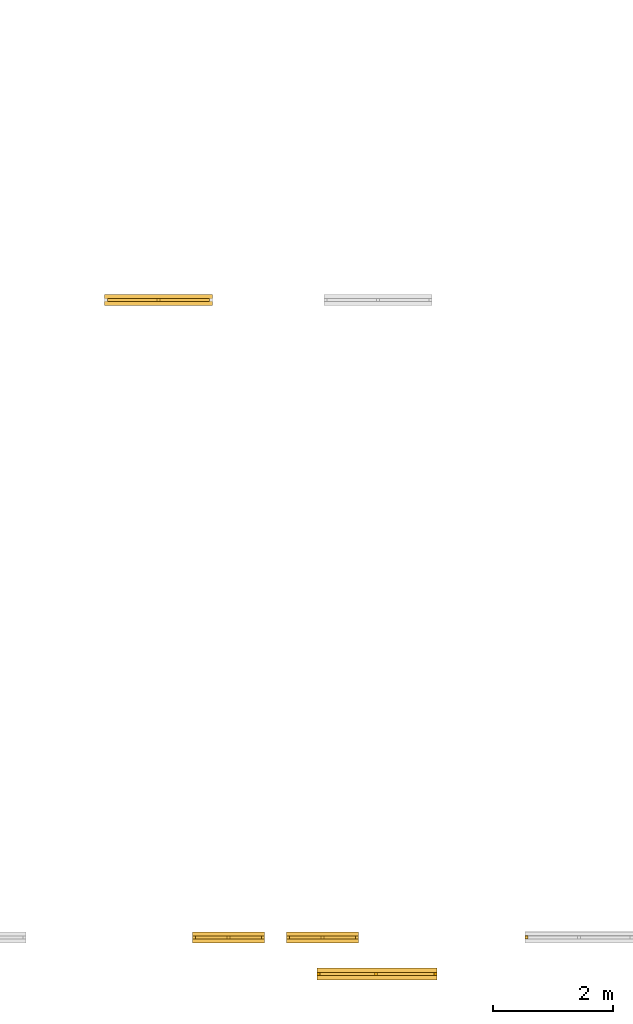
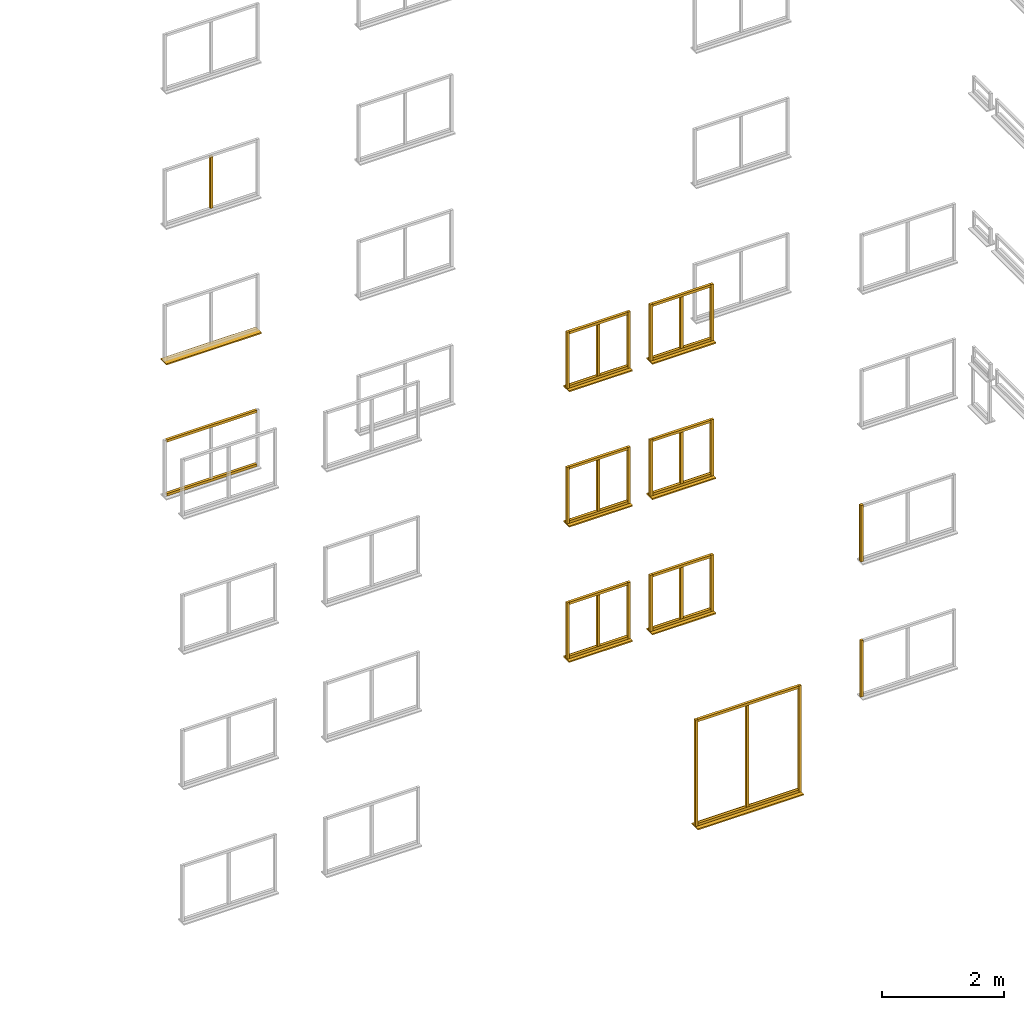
# Not in any storey, part 14 of 22: 49 windows.
"""IFC2X3 model written with IfcOpenShell, lengths in metres."""

from ifc_helpers import new_model, si_unit, frame, origin, place, context, project, faceted_brep, element, save


model = new_model("IFC2X3")

# Units and contexts
model_context = context("Model", 3, precision=1e-06, world=origin())
ifc_project = project(units=[si_unit("LENGTHUNIT", "METRE"), si_unit("PLANEANGLEUNIT", "RADIAN")], contexts=[model_context])

# Windows
placement = place(None, origin())
for number, where, z_axis, x_axis, name in (
    (1, (53.84499999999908, -5.698337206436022, 1.025), (0.0, 0.0, 1.0), (1.0, 0.0, 0.0), "leftFrame"),
    (2, (53.84499999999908, -5.698337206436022, 3.725), (0.0, 0.0, 1.0), (1.0, 0.0, 0.0), "leftFrame"),
    (3, (53.844999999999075, -5.691837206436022, 3.725), (0.0, 0.0, 1.0), (1.0, 0.0, 0.0), "leftFrame"),
):
    element("IfcWindow", number, at=place(placement, frame(where, z_axis=z_axis, x_axis=x_axis)), Name=name, context=model_context, shape_type="Brep", body=[
        faceted_brep([(0.0, 0.05, 0.0), (0.05, 0.05, 0.0), (0.05, 0.0, 0.0), (0.0, 0.0, 0.0), (0.05, 0.0, 1.125), (0.05, 0.05, 1.125), (0.0, 0.05, 1.125), (0.0, 0.0, 1.125), (0.0, 0.05, 0.0), (0.0, 0.0, 0.0), (0.0, 0.0, 1.125), (0.0, 0.05, 1.125), (0.05, 0.05, 0.0), (0.0, 0.05, 0.0), (0.0, 0.05, 1.125), (0.05, 0.05, 1.125), (0.05, 0.0, 0.0), (0.05, 0.05, 0.0), (0.05, 0.05, 1.125), (0.05, 0.0, 1.125), (0.0, 0.0, 0.0), (0.05, 0.0, 0.0), (0.05, 0.0, 1.125), (0.0, 0.0, 1.125)], [[[0, 1, 2, 3]], [[4, 5, 6, 7]], [[8, 9, 10, 11]], [[12, 13, 14, 15]], [[16, 17, 18, 19]], [[20, 21, 22, 23]]]),
    ])
window_1_placement = place(placement, frame((48.634598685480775, 5.057077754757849, 3.7), z_axis=(0.0, 0.0, 1.0), x_axis=(-1.0, 0.0, 0.0)))
element("IfcWindow", 4, at=window_1_placement, Name="windowSill", context=model_context, shape_type="Brep", body=[
    faceted_brep([(0.0, 0.186999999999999, 0.0), (1.8, 0.186999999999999, 0.0), (1.8, 0.0, 0.0), (0.0, 0.0, 0.0), (1.8, 0.0, 0.025), (1.8, 0.186999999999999, 0.025), (0.0, 0.186999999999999, 0.025), (0.0, 0.0, 0.025), (0.0, 0.186999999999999, 0.0), (0.0, 0.0, 0.0), (0.0, 0.0, 0.025), (0.0, 0.186999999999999, 0.025), (1.8, 0.186999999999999, 0.0), (0.0, 0.186999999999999, 0.0), (0.0, 0.186999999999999, 0.025), (1.8, 0.186999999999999, 0.025), (1.8, 0.0, 0.0), (1.8, 0.186999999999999, 0.0), (1.8, 0.186999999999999, 0.025), (1.8, 0.0, 0.025), (0.0, 0.0, 0.0), (1.8, 0.0, 0.0), (1.8, 0.0, 0.025), (0.0, 0.0, 0.025)], [[[0, 1, 2, 3]], [[4, 5, 6, 7]], [[8, 9, 10, 11]], [[12, 13, 14, 15]], [[16, 17, 18, 19]], [[20, 21, 22, 23]]]),
])
window_2_placement = place(placement, frame((48.58459868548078, 4.988577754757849, 2.1), z_axis=(0.0, 0.0, 1.0), x_axis=(-1.0, 0.0, 0.0)))
element("IfcWindow", 5, at=window_2_placement, Name="topFrame", context=model_context, shape_type="Brep", body=[
    faceted_brep([(0.0, 0.05, 0.0), (1.7, 0.05, 0.0), (1.7, 0.0, 0.0), (0.0, 0.0, 0.0), (1.7, 0.0, 0.05), (1.7, 0.05, 0.05), (0.0, 0.05, 0.05), (0.0, 0.0, 0.05), (0.0, 0.05, 0.0), (0.0, 0.0, 0.0), (0.0, 0.0, 0.05), (0.0, 0.05, 0.05), (1.7, 0.05, 0.0), (0.0, 0.05, 0.0), (0.0, 0.05, 0.05), (1.7, 0.05, 0.05), (1.7, 0.0, 0.0), (1.7, 0.05, 0.0), (1.7, 0.05, 0.05), (1.7, 0.0, 0.05), (0.0, 0.0, 0.0), (1.7, 0.0, 0.0), (1.7, 0.0, 0.05), (0.0, 0.0, 0.05)], [[[0, 1, 2, 3]], [[4, 5, 6, 7]], [[8, 9, 10, 11]], [[12, 13, 14, 15]], [[16, 17, 18, 19]], [[20, 21, 22, 23]]]),
])
window_3_placement = place(placement, frame((47.759598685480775, 4.98857775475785, 6.475000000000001), z_axis=(0.0, 0.0, 1.0), x_axis=(-1.0, 0.0, 0.0)))
element("IfcWindow", 6, at=window_3_placement, Name="verticalBar", context=model_context, shape_type="Brep", body=[
    faceted_brep([(0.0, 0.05, 0.0), (0.05, 0.05, 0.0), (0.05, 0.0, 0.0), (0.0, 0.0, 0.0), (0.05, 0.0, 1.025), (0.05, 0.05, 1.025), (0.0, 0.05, 1.025), (0.0, 0.0, 1.025), (0.0, 0.05, 0.0), (0.0, 0.0, 0.0), (0.0, 0.0, 1.025), (0.0, 0.05, 1.025), (0.05, 0.05, 0.0), (0.0, 0.05, 0.0), (0.0, 0.05, 1.025), (0.05, 0.05, 1.025), (0.05, 0.0, 0.0), (0.05, 0.05, 0.0), (0.05, 0.05, 1.025), (0.05, 0.0, 1.025), (0.0, 0.0, 0.0), (0.05, 0.0, 0.0), (0.05, 0.0, 1.025), (0.0, 0.0, 1.025)], [[[0, 1, 2, 3]], [[4, 5, 6, 7]], [[8, 9, 10, 11]], [[12, 13, 14, 15]], [[16, 17, 18, 19]], [[20, 21, 22, 23]]]),
])
for number, where, z_axis, x_axis, name in (
    (7, (49.86999999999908, -5.698422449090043, 3.725000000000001), (0.0, 0.0, 1.0), (1.0, 0.0, 0.0), "leftFrame"),
    (8, (51.01999999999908, -5.698422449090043, 3.725000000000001), (0.0, 0.0, 1.0), (1.0, 0.0, 0.0), "rightFrame"),
):
    element("IfcWindow", number, at=place(placement, frame(where, z_axis=z_axis, x_axis=x_axis)), Name=name, context=model_context, shape_type="Brep", body=[
        faceted_brep([(0.0, 0.05, 0.0), (0.05, 0.05, 0.0), (0.05, 0.0, 0.0), (0.0, 0.0, 0.0), (0.05, 0.0, 1.125), (0.05, 0.05, 1.125), (0.0, 0.05, 1.125), (0.0, 0.0, 1.125), (0.0, 0.05, 0.0), (0.0, 0.0, 0.0), (0.0, 0.0, 1.125), (0.0, 0.05, 1.125), (0.05, 0.05, 0.0), (0.0, 0.05, 0.0), (0.0, 0.05, 1.125), (0.05, 0.05, 1.125), (0.05, 0.0, 0.0), (0.05, 0.05, 0.0), (0.05, 0.05, 1.125), (0.05, 0.0, 1.125), (0.0, 0.0, 0.0), (0.05, 0.0, 0.0), (0.05, 0.0, 1.125), (0.0, 0.0, 1.125)], [[[0, 1, 2, 3]], [[4, 5, 6, 7]], [[8, 9, 10, 11]], [[12, 13, 14, 15]], [[16, 17, 18, 19]], [[20, 21, 22, 23]]]),
    ])
for number, where, z_axis, x_axis, name in (
    (9, (50.42499999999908, -6.304922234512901, 0.025), (0.0, 0.0, 1.0), (1.0, 0.0, 0.0), "bottomFrame"),
    (10, (50.42499999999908, -6.304922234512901, 2.1), (0.0, 0.0, 1.0), (1.0, 0.0, 0.0), "topFrame"),
):
    element("IfcWindow", number, at=place(placement, frame(where, z_axis=z_axis, x_axis=x_axis)), Name=name, context=model_context, shape_type="Brep", body=[
        faceted_brep([(0.0, 0.05, 0.0), (1.9, 0.05, 0.0), (1.9, 0.0, 0.0), (0.0, 0.0, 0.0), (1.9, 0.0, 0.05), (1.9, 0.05, 0.05), (0.0, 0.05, 0.05), (0.0, 0.0, 0.05), (0.0, 0.05, 0.0), (0.0, 0.0, 0.0), (0.0, 0.0, 0.05), (0.0, 0.05, 0.05), (1.9, 0.05, 0.0), (0.0, 0.05, 0.0), (0.0, 0.05, 0.05), (1.9, 0.05, 0.05), (1.9, 0.0, 0.0), (1.9, 0.05, 0.0), (1.9, 0.05, 0.05), (1.9, 0.0, 0.05), (0.0, 0.0, 0.0), (1.9, 0.0, 0.0), (1.9, 0.0, 0.05), (0.0, 0.0, 0.05)], [[[0, 1, 2, 3]], [[4, 5, 6, 7]], [[8, 9, 10, 11]], [[12, 13, 14, 15]], [[16, 17, 18, 19]], [[20, 21, 22, 23]]]),
    ])
for number, where, z_axis, x_axis, name in (
    (11, (50.37499999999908, -6.304922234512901, 0.025), (0.0, 0.0, 1.0), (1.0, 0.0, 0.0), "leftFrame"),
    (12, (52.324999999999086, -6.304922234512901, 0.025), (0.0, 0.0, 1.0), (1.0, 0.0, 0.0), "rightFrame"),
):
    element("IfcWindow", number, at=place(placement, frame(where, z_axis=z_axis, x_axis=x_axis)), Name=name, context=model_context, shape_type="Brep", body=[
        faceted_brep([(0.0, 0.05, 0.0), (0.05, 0.05, 0.0), (0.05, 0.0, 0.0), (0.0, 0.0, 0.0), (0.05, 0.0, 2.125), (0.05, 0.05, 2.125), (0.0, 0.05, 2.125), (0.0, 0.0, 2.125), (0.0, 0.05, 0.0), (0.0, 0.0, 0.0), (0.0, 0.0, 2.125), (0.0, 0.05, 2.125), (0.05, 0.05, 0.0), (0.0, 0.05, 0.0), (0.0, 0.05, 2.125), (0.05, 0.05, 2.125), (0.05, 0.0, 0.0), (0.05, 0.05, 0.0), (0.05, 0.05, 2.125), (0.05, 0.0, 2.125), (0.0, 0.0, 0.0), (0.05, 0.0, 0.0), (0.05, 0.0, 2.125), (0.0, 0.0, 2.125)], [[[0, 1, 2, 3]], [[4, 5, 6, 7]], [[8, 9, 10, 11]], [[12, 13, 14, 15]], [[16, 17, 18, 19]], [[20, 21, 22, 23]]]),
    ])
window_4_placement = place(placement, frame((50.37499999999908, -6.379922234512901, 0.0), z_axis=(0.0, 0.0, 1.0), x_axis=(1.0, 0.0, 0.0)))
element("IfcWindow", 13, at=window_4_placement, Name="windowSill", context=model_context, shape_type="Brep", body=[
    faceted_brep([(0.0, 0.2, 0.0), (2.0, 0.2, 0.0), (2.0, 0.0, 0.0), (0.0, 0.0, 0.0), (2.0, 0.0, 0.025), (2.0, 0.2, 0.025), (0.0, 0.2, 0.025), (0.0, 0.0, 0.025), (0.0, 0.2, 0.0), (0.0, 0.0, 0.0), (0.0, 0.0, 0.025), (0.0, 0.2, 0.025), (2.0, 0.2, 0.0), (0.0, 0.2, 0.0), (0.0, 0.2, 0.025), (2.0, 0.2, 0.025), (2.0, 0.0, 0.0), (2.0, 0.2, 0.0), (2.0, 0.2, 0.025), (2.0, 0.0, 0.025), (0.0, 0.0, 0.0), (2.0, 0.0, 0.0), (2.0, 0.0, 0.025), (0.0, 0.0, 0.025)], [[[0, 1, 2, 3]], [[4, 5, 6, 7]], [[8, 9, 10, 11]], [[12, 13, 14, 15]], [[16, 17, 18, 19]], [[20, 21, 22, 23]]]),
])
window_5_placement = place(placement, frame((48.299999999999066, -5.698422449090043, 3.725000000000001), z_axis=(0.0, 0.0, 1.0), x_axis=(1.0, 0.0, 0.0)))
element("IfcWindow", 14, at=window_5_placement, Name="leftFrame", context=model_context, shape_type="Brep", body=[
    faceted_brep([(0.0, 0.05, 0.0), (0.05, 0.05, 0.0), (0.05, 0.0, 0.0), (0.0, 0.0, 0.0), (0.05, 0.0, 1.125), (0.05, 0.05, 1.125), (0.0, 0.05, 1.125), (0.0, 0.0, 1.125), (0.0, 0.05, 0.0), (0.0, 0.0, 0.0), (0.0, 0.0, 1.125), (0.0, 0.05, 1.125), (0.05, 0.05, 0.0), (0.0, 0.05, 0.0), (0.0, 0.05, 1.125), (0.05, 0.05, 1.125), (0.05, 0.0, 0.0), (0.05, 0.05, 0.0), (0.05, 0.05, 1.125), (0.05, 0.0, 1.125), (0.0, 0.0, 0.0), (0.05, 0.0, 0.0), (0.05, 0.0, 1.125), (0.0, 0.0, 1.125)], [[[0, 1, 2, 3]], [[4, 5, 6, 7]], [[8, 9, 10, 11]], [[12, 13, 14, 15]], [[16, 17, 18, 19]], [[20, 21, 22, 23]]]),
])
window_6_placement = place(placement, frame((48.34999999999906, -5.698422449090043, 3.725000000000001), z_axis=(0.0, 0.0, 1.0), x_axis=(1.0, 0.0, 0.0)))
element("IfcWindow", 15, at=window_6_placement, Name="bottomFrame", context=model_context, shape_type="Brep", body=[
    faceted_brep([(0.0, 0.05, 0.0), (1.1, 0.05, 0.0), (1.1, 0.0, 0.0), (0.0, 0.0, 0.0), (1.1, 0.0, 0.05), (1.1, 0.05, 0.05), (0.0, 0.05, 0.05), (0.0, 0.0, 0.05), (0.0, 0.05, 0.0), (0.0, 0.0, 0.0), (0.0, 0.0, 0.05), (0.0, 0.05, 0.05), (1.1, 0.05, 0.0), (0.0, 0.05, 0.0), (0.0, 0.05, 0.05), (1.1, 0.05, 0.05), (1.1, 0.0, 0.0), (1.1, 0.05, 0.0), (1.1, 0.05, 0.05), (1.1, 0.0, 0.05), (0.0, 0.0, 0.0), (1.1, 0.0, 0.0), (1.1, 0.0, 0.05), (0.0, 0.0, 0.05)], [[[0, 1, 2, 3]], [[4, 5, 6, 7]], [[8, 9, 10, 11]], [[12, 13, 14, 15]], [[16, 17, 18, 19]], [[20, 21, 22, 23]]]),
])
window_7_placement = place(placement, frame((48.87499999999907, -5.698422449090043, 3.775000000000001), z_axis=(0.0, 0.0, 1.0), x_axis=(1.0, 0.0, 0.0)))
element("IfcWindow", 16, at=window_7_placement, Name="verticalBar", context=model_context, shape_type="Brep", body=[
    faceted_brep([(0.0, 0.05, 0.0), (0.05, 0.05, 0.0), (0.05, 0.0, 0.0), (0.0, 0.0, 0.0), (0.05, 0.0, 1.025), (0.05, 0.05, 1.025), (0.0, 0.05, 1.025), (0.0, 0.0, 1.025), (0.0, 0.05, 0.0), (0.0, 0.0, 0.0), (0.0, 0.0, 1.025), (0.0, 0.05, 1.025), (0.05, 0.05, 0.0), (0.0, 0.05, 0.0), (0.0, 0.05, 1.025), (0.05, 0.05, 1.025), (0.05, 0.0, 0.0), (0.05, 0.05, 0.0), (0.05, 0.05, 1.025), (0.05, 0.0, 1.025), (0.0, 0.0, 0.0), (0.05, 0.0, 0.0), (0.05, 0.0, 1.025), (0.0, 0.0, 1.025)], [[[0, 1, 2, 3]], [[4, 5, 6, 7]], [[8, 9, 10, 11]], [[12, 13, 14, 15]], [[16, 17, 18, 19]], [[20, 21, 22, 23]]]),
])
window_8_placement = place(placement, frame((51.33749999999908, -6.304922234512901, 0.075), z_axis=(0.0, 0.0, 1.0), x_axis=(1.0, 0.0, 0.0)))
element("IfcWindow", 17, at=window_8_placement, Name="verticalLeftBar", context=model_context, shape_type="Brep", body=[
    faceted_brep([(0.0, 0.05, 0.0), (0.05, 0.05, 0.0), (0.05, 0.0, 0.0), (0.0, 0.0, 0.0), (0.05, 0.0, 2.025), (0.05, 0.05, 2.025), (0.0, 0.05, 2.025), (0.0, 0.0, 2.025), (0.0, 0.05, 0.0), (0.0, 0.0, 0.0), (0.0, 0.0, 2.025), (0.0, 0.05, 2.025), (0.05, 0.05, 0.0), (0.0, 0.05, 0.0), (0.0, 0.05, 2.025), (0.05, 0.05, 2.025), (0.05, 0.0, 0.0), (0.05, 0.05, 0.0), (0.05, 0.05, 2.025), (0.05, 0.0, 2.025), (0.0, 0.0, 0.0), (0.05, 0.0, 0.0), (0.05, 0.0, 2.025), (0.0, 0.0, 2.025)], [[[0, 1, 2, 3]], [[4, 5, 6, 7]], [[8, 9, 10, 11]], [[12, 13, 14, 15]], [[16, 17, 18, 19]], [[20, 21, 22, 23]]]),
])
window_9_placement = place(placement, frame((49.86999999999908, -5.698422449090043, 6.425000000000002), z_axis=(0.0, 0.0, 1.0), x_axis=(1.0, 0.0, 0.0)))
element("IfcWindow", 18, at=window_9_placement, Name="leftFrame", context=model_context, shape_type="Brep", body=[
    faceted_brep([(0.0, 0.05, 0.0), (0.05, 0.05, 0.0), (0.05, 0.0, 0.0), (0.0, 0.0, 0.0), (0.05, 0.0, 1.125), (0.05, 0.05, 1.125), (0.0, 0.05, 1.125), (0.0, 0.0, 1.125), (0.0, 0.05, 0.0), (0.0, 0.0, 0.0), (0.0, 0.0, 1.125), (0.0, 0.05, 1.125), (0.05, 0.05, 0.0), (0.0, 0.05, 0.0), (0.0, 0.05, 1.125), (0.05, 0.05, 1.125), (0.05, 0.0, 0.0), (0.05, 0.05, 0.0), (0.05, 0.05, 1.125), (0.05, 0.0, 1.125), (0.0, 0.0, 0.0), (0.05, 0.0, 0.0), (0.05, 0.0, 1.125), (0.0, 0.0, 1.125)], [[[0, 1, 2, 3]], [[4, 5, 6, 7]], [[8, 9, 10, 11]], [[12, 13, 14, 15]], [[16, 17, 18, 19]], [[20, 21, 22, 23]]]),
])
window_10_placement = place(placement, frame((49.86999999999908, -5.766922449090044, 6.400000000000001), z_axis=(0.0, 0.0, 1.0), x_axis=(1.0, 0.0, 0.0)))
element("IfcWindow", 19, at=window_10_placement, Name="windowSill", context=model_context, shape_type="Brep", body=[
    faceted_brep([(0.0, 0.187, 0.0), (1.2, 0.187, 0.0), (1.2, 0.0, 0.0), (0.0, 0.0, 0.0), (1.2, 0.0, 0.025), (1.2, 0.187, 0.025), (0.0, 0.187, 0.025), (0.0, 0.0, 0.025), (0.0, 0.187, 0.0), (0.0, 0.0, 0.0), (0.0, 0.0, 0.025), (0.0, 0.187, 0.025), (1.2, 0.187, 0.0), (0.0, 0.187, 0.0), (0.0, 0.187, 0.025), (1.2, 0.187, 0.025), (1.2, 0.0, 0.0), (1.2, 0.187, 0.0), (1.2, 0.187, 0.025), (1.2, 0.0, 0.025), (0.0, 0.0, 0.0), (1.2, 0.0, 0.0), (1.2, 0.0, 0.025), (0.0, 0.0, 0.025)], [[[0, 1, 2, 3]], [[4, 5, 6, 7]], [[8, 9, 10, 11]], [[12, 13, 14, 15]], [[16, 17, 18, 19]], [[20, 21, 22, 23]]]),
])
window_11_placement = place(placement, frame((50.444999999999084, -5.698422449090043, 6.475000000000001), z_axis=(0.0, 0.0, 1.0), x_axis=(1.0, 0.0, 0.0)))
element("IfcWindow", 20, at=window_11_placement, Name="verticalBar", context=model_context, shape_type="Brep", body=[
    faceted_brep([(0.0, 0.05, 0.0), (0.05, 0.05, 0.0), (0.05, 0.0, 0.0), (0.0, 0.0, 0.0), (0.05, 0.0, 1.025), (0.05, 0.05, 1.025), (0.0, 0.05, 1.025), (0.0, 0.0, 1.025), (0.0, 0.05, 0.0), (0.0, 0.0, 0.0), (0.0, 0.0, 1.025), (0.0, 0.05, 1.025), (0.05, 0.05, 0.0), (0.0, 0.05, 0.0), (0.0, 0.05, 1.025), (0.05, 0.05, 1.025), (0.05, 0.0, 0.0), (0.05, 0.05, 0.0), (0.05, 0.05, 1.025), (0.05, 0.0, 1.025), (0.0, 0.0, 0.0), (0.05, 0.0, 0.0), (0.05, 0.0, 1.025), (0.0, 0.0, 1.025)], [[[0, 1, 2, 3]], [[4, 5, 6, 7]], [[8, 9, 10, 11]], [[12, 13, 14, 15]], [[16, 17, 18, 19]], [[20, 21, 22, 23]]]),
])
window_12_placement = place(placement, frame((51.01999999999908, -5.698422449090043, 6.425000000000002), z_axis=(0.0, 0.0, 1.0), x_axis=(1.0, 0.0, 0.0)))
element("IfcWindow", 21, at=window_12_placement, Name="rightFrame", context=model_context, shape_type="Brep", body=[
    faceted_brep([(0.0, 0.05, 0.0), (0.05, 0.05, 0.0), (0.05, 0.0, 0.0), (0.0, 0.0, 0.0), (0.05, 0.0, 1.125), (0.05, 0.05, 1.125), (0.0, 0.05, 1.125), (0.0, 0.0, 1.125), (0.0, 0.05, 0.0), (0.0, 0.0, 0.0), (0.0, 0.0, 1.125), (0.0, 0.05, 1.125), (0.05, 0.05, 0.0), (0.0, 0.05, 0.0), (0.0, 0.05, 1.125), (0.05, 0.05, 1.125), (0.05, 0.0, 0.0), (0.05, 0.05, 0.0), (0.05, 0.05, 1.125), (0.05, 0.0, 1.125), (0.0, 0.0, 0.0), (0.05, 0.0, 0.0), (0.05, 0.0, 1.125), (0.0, 0.0, 1.125)], [[[0, 1, 2, 3]], [[4, 5, 6, 7]], [[8, 9, 10, 11]], [[12, 13, 14, 15]], [[16, 17, 18, 19]], [[20, 21, 22, 23]]]),
])
for number, where, z_axis, x_axis, name in (
    (22, (49.91999999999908, -5.698422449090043, 7.500000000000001), (0.0, 0.0, 1.0), (1.0, 0.0, 0.0), "topFrame"),
    (23, (49.91999999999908, -5.698422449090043, 6.425000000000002), (0.0, 0.0, 1.0), (1.0, 0.0, 0.0), "bottomFrame"),
    (24, (48.34999999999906, -5.698422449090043, 7.500000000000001), (0.0, 0.0, 1.0), (1.0, 0.0, 0.0), "topFrame"),
):
    element("IfcWindow", number, at=place(placement, frame(where, z_axis=z_axis, x_axis=x_axis)), Name=name, context=model_context, shape_type="Brep", body=[
        faceted_brep([(0.0, 0.05, 0.0), (1.1, 0.05, 0.0), (1.1, 0.0, 0.0), (0.0, 0.0, 0.0), (1.1, 0.0, 0.05), (1.1, 0.05, 0.05), (0.0, 0.05, 0.05), (0.0, 0.0, 0.05), (0.0, 0.05, 0.0), (0.0, 0.0, 0.0), (0.0, 0.0, 0.05), (0.0, 0.05, 0.05), (1.1, 0.05, 0.0), (0.0, 0.05, 0.0), (0.0, 0.05, 0.05), (1.1, 0.05, 0.05), (1.1, 0.0, 0.0), (1.1, 0.05, 0.0), (1.1, 0.05, 0.05), (1.1, 0.0, 0.05), (0.0, 0.0, 0.0), (1.1, 0.0, 0.0), (1.1, 0.0, 0.05), (0.0, 0.0, 0.05)], [[[0, 1, 2, 3]], [[4, 5, 6, 7]], [[8, 9, 10, 11]], [[12, 13, 14, 15]], [[16, 17, 18, 19]], [[20, 21, 22, 23]]]),
    ])
window_13_placement = place(placement, frame((49.449999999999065, -5.698422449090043, 6.425000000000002), z_axis=(0.0, 0.0, 1.0), x_axis=(1.0, 0.0, 0.0)))
element("IfcWindow", 25, at=window_13_placement, Name="rightFrame", context=model_context, shape_type="Brep", body=[
    faceted_brep([(0.0, 0.05, 0.0), (0.05, 0.05, 0.0), (0.05, 0.0, 0.0), (0.0, 0.0, 0.0), (0.05, 0.0, 1.125), (0.05, 0.05, 1.125), (0.0, 0.05, 1.125), (0.0, 0.0, 1.125), (0.0, 0.05, 0.0), (0.0, 0.0, 0.0), (0.0, 0.0, 1.125), (0.0, 0.05, 1.125), (0.05, 0.05, 0.0), (0.0, 0.05, 0.0), (0.0, 0.05, 1.125), (0.05, 0.05, 1.125), (0.05, 0.0, 0.0), (0.05, 0.05, 0.0), (0.05, 0.05, 1.125), (0.05, 0.0, 1.125), (0.0, 0.0, 0.0), (0.05, 0.0, 0.0), (0.05, 0.0, 1.125), (0.0, 0.0, 1.125)], [[[0, 1, 2, 3]], [[4, 5, 6, 7]], [[8, 9, 10, 11]], [[12, 13, 14, 15]], [[16, 17, 18, 19]], [[20, 21, 22, 23]]]),
])
window_14_placement = place(placement, frame((48.87499999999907, -5.698422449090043, 6.475000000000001), z_axis=(0.0, 0.0, 1.0), x_axis=(1.0, 0.0, 0.0)))
element("IfcWindow", 26, at=window_14_placement, Name="verticalBar", context=model_context, shape_type="Brep", body=[
    faceted_brep([(0.0, 0.05, 0.0), (0.05, 0.05, 0.0), (0.05, 0.0, 0.0), (0.0, 0.0, 0.0), (0.05, 0.0, 1.025), (0.05, 0.05, 1.025), (0.0, 0.05, 1.025), (0.0, 0.0, 1.025), (0.0, 0.05, 0.0), (0.0, 0.0, 0.0), (0.0, 0.0, 1.025), (0.0, 0.05, 1.025), (0.05, 0.05, 0.0), (0.0, 0.05, 0.0), (0.0, 0.05, 1.025), (0.05, 0.05, 1.025), (0.05, 0.0, 0.0), (0.05, 0.05, 0.0), (0.05, 0.05, 1.025), (0.05, 0.0, 1.025), (0.0, 0.0, 0.0), (0.05, 0.0, 0.0), (0.05, 0.0, 1.025), (0.0, 0.0, 1.025)], [[[0, 1, 2, 3]], [[4, 5, 6, 7]], [[8, 9, 10, 11]], [[12, 13, 14, 15]], [[16, 17, 18, 19]], [[20, 21, 22, 23]]]),
])
window_15_placement = place(placement, frame((48.299999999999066, -5.766922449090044, 6.400000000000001), z_axis=(0.0, 0.0, 1.0), x_axis=(1.0, 0.0, 0.0)))
element("IfcWindow", 27, at=window_15_placement, Name="windowSill", context=model_context, shape_type="Brep", body=[
    faceted_brep([(0.0, 0.187, 0.0), (1.2, 0.187, 0.0), (1.2, 0.0, 0.0), (0.0, 0.0, 0.0), (1.2, 0.0, 0.025), (1.2, 0.187, 0.025), (0.0, 0.187, 0.025), (0.0, 0.0, 0.025), (0.0, 0.187, 0.0), (0.0, 0.0, 0.0), (0.0, 0.0, 0.025), (0.0, 0.187, 0.025), (1.2, 0.187, 0.0), (0.0, 0.187, 0.0), (0.0, 0.187, 0.025), (1.2, 0.187, 0.025), (1.2, 0.0, 0.0), (1.2, 0.187, 0.0), (1.2, 0.187, 0.025), (1.2, 0.0, 0.025), (0.0, 0.0, 0.0), (1.2, 0.0, 0.0), (1.2, 0.0, 0.025), (0.0, 0.0, 0.025)], [[[0, 1, 2, 3]], [[4, 5, 6, 7]], [[8, 9, 10, 11]], [[12, 13, 14, 15]], [[16, 17, 18, 19]], [[20, 21, 22, 23]]]),
])
window_16_placement = place(placement, frame((48.299999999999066, -5.698422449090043, 6.425000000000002), z_axis=(0.0, 0.0, 1.0), x_axis=(1.0, 0.0, 0.0)))
element("IfcWindow", 28, at=window_16_placement, Name="leftFrame", context=model_context, shape_type="Brep", body=[
    faceted_brep([(0.0, 0.05, 0.0), (0.05, 0.05, 0.0), (0.05, 0.0, 0.0), (0.0, 0.0, 0.0), (0.05, 0.0, 1.125), (0.05, 0.05, 1.125), (0.0, 0.05, 1.125), (0.0, 0.0, 1.125), (0.0, 0.05, 0.0), (0.0, 0.0, 0.0), (0.0, 0.0, 1.125), (0.0, 0.05, 1.125), (0.05, 0.05, 0.0), (0.0, 0.05, 0.0), (0.0, 0.05, 1.125), (0.05, 0.05, 1.125), (0.05, 0.0, 0.0), (0.05, 0.05, 0.0), (0.05, 0.05, 1.125), (0.05, 0.0, 1.125), (0.0, 0.0, 0.0), (0.05, 0.0, 0.0), (0.05, 0.0, 1.125), (0.0, 0.0, 1.125)], [[[0, 1, 2, 3]], [[4, 5, 6, 7]], [[8, 9, 10, 11]], [[12, 13, 14, 15]], [[16, 17, 18, 19]], [[20, 21, 22, 23]]]),
])
for number, where, z_axis, x_axis, name in (
    (29, (49.91999999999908, -5.698422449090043, 9.125000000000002), (0.0, 0.0, 1.0), (1.0, 0.0, 0.0), "bottomFrame"),
    (30, (49.91999999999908, -5.698422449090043, 10.200000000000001), (0.0, 0.0, 1.0), (1.0, 0.0, 0.0), "topFrame"),
):
    element("IfcWindow", number, at=place(placement, frame(where, z_axis=z_axis, x_axis=x_axis)), Name=name, context=model_context, shape_type="Brep", body=[
        faceted_brep([(0.0, 0.05, 0.0), (1.1, 0.05, 0.0), (1.1, 0.0, 0.0), (0.0, 0.0, 0.0), (1.1, 0.0, 0.05), (1.1, 0.05, 0.05), (0.0, 0.05, 0.05), (0.0, 0.0, 0.05), (0.0, 0.05, 0.0), (0.0, 0.0, 0.0), (0.0, 0.0, 0.05), (0.0, 0.05, 0.05), (1.1, 0.05, 0.0), (0.0, 0.05, 0.0), (0.0, 0.05, 0.05), (1.1, 0.05, 0.05), (1.1, 0.0, 0.0), (1.1, 0.05, 0.0), (1.1, 0.05, 0.05), (1.1, 0.0, 0.05), (0.0, 0.0, 0.0), (1.1, 0.0, 0.0), (1.1, 0.0, 0.05), (0.0, 0.0, 0.05)], [[[0, 1, 2, 3]], [[4, 5, 6, 7]], [[8, 9, 10, 11]], [[12, 13, 14, 15]], [[16, 17, 18, 19]], [[20, 21, 22, 23]]]),
    ])
window_17_placement = place(placement, frame((51.01999999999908, -5.698422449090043, 9.125000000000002), z_axis=(0.0, 0.0, 1.0), x_axis=(1.0, 0.0, 0.0)))
element("IfcWindow", 31, at=window_17_placement, Name="rightFrame", context=model_context, shape_type="Brep", body=[
    faceted_brep([(0.0, 0.05, 0.0), (0.05, 0.05, 0.0), (0.05, 0.0, 0.0), (0.0, 0.0, 0.0), (0.05, 0.0, 1.125), (0.05, 0.05, 1.125), (0.0, 0.05, 1.125), (0.0, 0.0, 1.125), (0.0, 0.05, 0.0), (0.0, 0.0, 0.0), (0.0, 0.0, 1.125), (0.0, 0.05, 1.125), (0.05, 0.05, 0.0), (0.0, 0.05, 0.0), (0.0, 0.05, 1.125), (0.05, 0.05, 1.125), (0.05, 0.0, 0.0), (0.05, 0.05, 0.0), (0.05, 0.05, 1.125), (0.05, 0.0, 1.125), (0.0, 0.0, 0.0), (0.05, 0.0, 0.0), (0.05, 0.0, 1.125), (0.0, 0.0, 1.125)], [[[0, 1, 2, 3]], [[4, 5, 6, 7]], [[8, 9, 10, 11]], [[12, 13, 14, 15]], [[16, 17, 18, 19]], [[20, 21, 22, 23]]]),
])
window_18_placement = place(placement, frame((49.86999999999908, -5.766922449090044, 9.100000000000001), z_axis=(0.0, 0.0, 1.0), x_axis=(1.0, 0.0, 0.0)))
element("IfcWindow", 32, at=window_18_placement, Name="windowSill", context=model_context, shape_type="Brep", body=[
    faceted_brep([(0.0, 0.187, 0.0), (1.2, 0.187, 0.0), (1.2, 0.0, 0.0), (0.0, 0.0, 0.0), (1.2, 0.0, 0.025), (1.2, 0.187, 0.025), (0.0, 0.187, 0.025), (0.0, 0.0, 0.025), (0.0, 0.187, 0.0), (0.0, 0.0, 0.0), (0.0, 0.0, 0.025), (0.0, 0.187, 0.025), (1.2, 0.187, 0.0), (0.0, 0.187, 0.0), (0.0, 0.187, 0.025), (1.2, 0.187, 0.025), (1.2, 0.0, 0.0), (1.2, 0.187, 0.0), (1.2, 0.187, 0.025), (1.2, 0.0, 0.025), (0.0, 0.0, 0.0), (1.2, 0.0, 0.0), (1.2, 0.0, 0.025), (0.0, 0.0, 0.025)], [[[0, 1, 2, 3]], [[4, 5, 6, 7]], [[8, 9, 10, 11]], [[12, 13, 14, 15]], [[16, 17, 18, 19]], [[20, 21, 22, 23]]]),
])
window_19_placement = place(placement, frame((50.444999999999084, -5.698422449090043, 9.175), z_axis=(0.0, 0.0, 1.0), x_axis=(1.0, 0.0, 0.0)))
element("IfcWindow", 33, at=window_19_placement, Name="verticalBar", context=model_context, shape_type="Brep", body=[
    faceted_brep([(0.0, 0.05, 0.0), (0.05, 0.05, 0.0), (0.05, 0.0, 0.0), (0.0, 0.0, 0.0), (0.05, 0.0, 1.025), (0.05, 0.05, 1.025), (0.0, 0.05, 1.025), (0.0, 0.0, 1.025), (0.0, 0.05, 0.0), (0.0, 0.0, 0.0), (0.0, 0.0, 1.025), (0.0, 0.05, 1.025), (0.05, 0.05, 0.0), (0.0, 0.05, 0.0), (0.0, 0.05, 1.025), (0.05, 0.05, 1.025), (0.05, 0.0, 0.0), (0.05, 0.05, 0.0), (0.05, 0.05, 1.025), (0.05, 0.0, 1.025), (0.0, 0.0, 0.0), (0.05, 0.0, 0.0), (0.05, 0.0, 1.025), (0.0, 0.0, 1.025)], [[[0, 1, 2, 3]], [[4, 5, 6, 7]], [[8, 9, 10, 11]], [[12, 13, 14, 15]], [[16, 17, 18, 19]], [[20, 21, 22, 23]]]),
])
for number, where, z_axis, x_axis, name in (
    (34, (49.86999999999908, -5.698422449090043, 9.125000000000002), (0.0, 0.0, 1.0), (1.0, 0.0, 0.0), "leftFrame"),
    (35, (48.299999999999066, -5.698422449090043, 9.125000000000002), (0.0, 0.0, 1.0), (1.0, 0.0, 0.0), "leftFrame"),
):
    element("IfcWindow", number, at=place(placement, frame(where, z_axis=z_axis, x_axis=x_axis)), Name=name, context=model_context, shape_type="Brep", body=[
        faceted_brep([(0.0, 0.05, 0.0), (0.05, 0.05, 0.0), (0.05, 0.0, 0.0), (0.0, 0.0, 0.0), (0.05, 0.0, 1.125), (0.05, 0.05, 1.125), (0.0, 0.05, 1.125), (0.0, 0.0, 1.125), (0.0, 0.05, 0.0), (0.0, 0.0, 0.0), (0.0, 0.0, 1.125), (0.0, 0.05, 1.125), (0.05, 0.05, 0.0), (0.0, 0.05, 0.0), (0.0, 0.05, 1.125), (0.05, 0.05, 1.125), (0.05, 0.0, 0.0), (0.05, 0.05, 0.0), (0.05, 0.05, 1.125), (0.05, 0.0, 1.125), (0.0, 0.0, 0.0), (0.05, 0.0, 0.0), (0.05, 0.0, 1.125), (0.0, 0.0, 1.125)], [[[0, 1, 2, 3]], [[4, 5, 6, 7]], [[8, 9, 10, 11]], [[12, 13, 14, 15]], [[16, 17, 18, 19]], [[20, 21, 22, 23]]]),
    ])
window_20_placement = place(placement, frame((48.299999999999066, -5.766922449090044, 9.100000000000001), z_axis=(0.0, 0.0, 1.0), x_axis=(1.0, 0.0, 0.0)))
element("IfcWindow", 36, at=window_20_placement, Name="windowSill", context=model_context, shape_type="Brep", body=[
    faceted_brep([(0.0, 0.187, 0.0), (1.2, 0.187, 0.0), (1.2, 0.0, 0.0), (0.0, 0.0, 0.0), (1.2, 0.0, 0.025), (1.2, 0.187, 0.025), (0.0, 0.187, 0.025), (0.0, 0.0, 0.025), (0.0, 0.187, 0.0), (0.0, 0.0, 0.0), (0.0, 0.0, 0.025), (0.0, 0.187, 0.025), (1.2, 0.187, 0.0), (0.0, 0.187, 0.0), (0.0, 0.187, 0.025), (1.2, 0.187, 0.025), (1.2, 0.0, 0.0), (1.2, 0.187, 0.0), (1.2, 0.187, 0.025), (1.2, 0.0, 0.025), (0.0, 0.0, 0.0), (1.2, 0.0, 0.0), (1.2, 0.0, 0.025), (0.0, 0.0, 0.025)], [[[0, 1, 2, 3]], [[4, 5, 6, 7]], [[8, 9, 10, 11]], [[12, 13, 14, 15]], [[16, 17, 18, 19]], [[20, 21, 22, 23]]]),
])
window_21_placement = place(placement, frame((48.34999999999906, -5.698422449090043, 9.125000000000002), z_axis=(0.0, 0.0, 1.0), x_axis=(1.0, 0.0, 0.0)))
element("IfcWindow", 37, at=window_21_placement, Name="bottomFrame", context=model_context, shape_type="Brep", body=[
    faceted_brep([(0.0, 0.05, 0.0), (1.1, 0.05, 0.0), (1.1, 0.0, 0.0), (0.0, 0.0, 0.0), (1.1, 0.0, 0.05), (1.1, 0.05, 0.05), (0.0, 0.05, 0.05), (0.0, 0.0, 0.05), (0.0, 0.05, 0.0), (0.0, 0.0, 0.0), (0.0, 0.0, 0.05), (0.0, 0.05, 0.05), (1.1, 0.05, 0.0), (0.0, 0.05, 0.0), (0.0, 0.05, 0.05), (1.1, 0.05, 0.05), (1.1, 0.0, 0.0), (1.1, 0.05, 0.0), (1.1, 0.05, 0.05), (1.1, 0.0, 0.05), (0.0, 0.0, 0.0), (1.1, 0.0, 0.0), (1.1, 0.0, 0.05), (0.0, 0.0, 0.05)], [[[0, 1, 2, 3]], [[4, 5, 6, 7]], [[8, 9, 10, 11]], [[12, 13, 14, 15]], [[16, 17, 18, 19]], [[20, 21, 22, 23]]]),
])
window_22_placement = place(placement, frame((48.87499999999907, -5.698422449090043, 9.175), z_axis=(0.0, 0.0, 1.0), x_axis=(1.0, 0.0, 0.0)))
element("IfcWindow", 38, at=window_22_placement, Name="verticalBar", context=model_context, shape_type="Brep", body=[
    faceted_brep([(0.0, 0.05, 0.0), (0.05, 0.05, 0.0), (0.05, 0.0, 0.0), (0.0, 0.0, 0.0), (0.05, 0.0, 1.025), (0.05, 0.05, 1.025), (0.0, 0.05, 1.025), (0.0, 0.0, 1.025), (0.0, 0.05, 0.0), (0.0, 0.0, 0.0), (0.0, 0.0, 1.025), (0.0, 0.05, 1.025), (0.05, 0.05, 0.0), (0.0, 0.05, 0.0), (0.0, 0.05, 1.025), (0.05, 0.05, 1.025), (0.05, 0.0, 0.0), (0.05, 0.05, 0.0), (0.05, 0.05, 1.025), (0.05, 0.0, 1.025), (0.0, 0.0, 0.0), (0.05, 0.0, 0.0), (0.05, 0.0, 1.025), (0.0, 0.0, 1.025)], [[[0, 1, 2, 3]], [[4, 5, 6, 7]], [[8, 9, 10, 11]], [[12, 13, 14, 15]], [[16, 17, 18, 19]], [[20, 21, 22, 23]]]),
])
window_23_placement = place(placement, frame((49.449999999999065, -5.698422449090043, 9.125000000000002), z_axis=(0.0, 0.0, 1.0), x_axis=(1.0, 0.0, 0.0)))
element("IfcWindow", 39, at=window_23_placement, Name="rightFrame", context=model_context, shape_type="Brep", body=[
    faceted_brep([(0.0, 0.05, 0.0), (0.05, 0.05, 0.0), (0.05, 0.0, 0.0), (0.0, 0.0, 0.0), (0.05, 0.0, 1.125), (0.05, 0.05, 1.125), (0.0, 0.05, 1.125), (0.0, 0.0, 1.125), (0.0, 0.05, 0.0), (0.0, 0.0, 0.0), (0.0, 0.0, 1.125), (0.0, 0.05, 1.125), (0.05, 0.05, 0.0), (0.0, 0.05, 0.0), (0.0, 0.05, 1.125), (0.05, 0.05, 1.125), (0.05, 0.0, 0.0), (0.05, 0.05, 0.0), (0.05, 0.05, 1.125), (0.05, 0.0, 1.125), (0.0, 0.0, 0.0), (0.05, 0.0, 0.0), (0.05, 0.0, 1.125), (0.0, 0.0, 1.125)], [[[0, 1, 2, 3]], [[4, 5, 6, 7]], [[8, 9, 10, 11]], [[12, 13, 14, 15]], [[16, 17, 18, 19]], [[20, 21, 22, 23]]]),
])
window_24_placement = place(placement, frame((48.34999999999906, -5.698422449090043, 10.200000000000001), z_axis=(0.0, 0.0, 1.0), x_axis=(1.0, 0.0, 0.0)))
element("IfcWindow", 40, at=window_24_placement, Name="topFrame", context=model_context, shape_type="Brep", body=[
    faceted_brep([(0.0, 0.05, 0.0), (1.1, 0.05, 0.0), (1.1, 0.0, 0.0), (0.0, 0.0, 0.0), (1.1, 0.0, 0.05), (1.1, 0.05, 0.05), (0.0, 0.05, 0.05), (0.0, 0.0, 0.05), (0.0, 0.05, 0.0), (0.0, 0.0, 0.0), (0.0, 0.0, 0.05), (0.0, 0.05, 0.05), (1.1, 0.05, 0.0), (0.0, 0.05, 0.0), (0.0, 0.05, 0.05), (1.1, 0.05, 0.05), (1.1, 0.0, 0.0), (1.1, 0.05, 0.0), (1.1, 0.05, 0.05), (1.1, 0.0, 0.05), (0.0, 0.0, 0.0), (1.1, 0.0, 0.0), (1.1, 0.0, 0.05), (0.0, 0.0, 0.05)], [[[0, 1, 2, 3]], [[4, 5, 6, 7]], [[8, 9, 10, 11]], [[12, 13, 14, 15]], [[16, 17, 18, 19]], [[20, 21, 22, 23]]]),
])
window_25_placement = place(placement, frame((49.449999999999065, -5.698422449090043, 3.725000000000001), z_axis=(0.0, 0.0, 1.0), x_axis=(1.0, 0.0, 0.0)))
element("IfcWindow", 41, at=window_25_placement, Name="rightFrame", context=model_context, shape_type="Brep", body=[
    faceted_brep([(0.0, 0.05, 0.0), (0.05, 0.05, 0.0), (0.05, 0.0, 0.0), (0.0, 0.0, 0.0), (0.05, 0.0, 1.125), (0.05, 0.05, 1.125), (0.0, 0.05, 1.125), (0.0, 0.0, 1.125), (0.0, 0.05, 0.0), (0.0, 0.0, 0.0), (0.0, 0.0, 1.125), (0.0, 0.05, 1.125), (0.05, 0.05, 0.0), (0.0, 0.05, 0.0), (0.0, 0.05, 1.125), (0.05, 0.05, 1.125), (0.05, 0.0, 0.0), (0.05, 0.05, 0.0), (0.05, 0.05, 1.125), (0.05, 0.0, 1.125), (0.0, 0.0, 0.0), (0.05, 0.0, 0.0), (0.05, 0.0, 1.125), (0.0, 0.0, 1.125)], [[[0, 1, 2, 3]], [[4, 5, 6, 7]], [[8, 9, 10, 11]], [[12, 13, 14, 15]], [[16, 17, 18, 19]], [[20, 21, 22, 23]]]),
])
window_26_placement = place(placement, frame((48.34999999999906, -5.698422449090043, 4.800000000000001), z_axis=(0.0, 0.0, 1.0), x_axis=(1.0, 0.0, 0.0)))
element("IfcWindow", 42, at=window_26_placement, Name="topFrame", context=model_context, shape_type="Brep", body=[
    faceted_brep([(0.0, 0.05, 0.0), (1.1, 0.05, 0.0), (1.1, 0.0, 0.0), (0.0, 0.0, 0.0), (1.1, 0.0, 0.05), (1.1, 0.05, 0.05), (0.0, 0.05, 0.05), (0.0, 0.0, 0.05), (0.0, 0.05, 0.0), (0.0, 0.0, 0.0), (0.0, 0.0, 0.05), (0.0, 0.05, 0.05), (1.1, 0.05, 0.0), (0.0, 0.05, 0.0), (0.0, 0.05, 0.05), (1.1, 0.05, 0.05), (1.1, 0.0, 0.0), (1.1, 0.05, 0.0), (1.1, 0.05, 0.05), (1.1, 0.0, 0.05), (0.0, 0.0, 0.0), (1.1, 0.0, 0.0), (1.1, 0.0, 0.05), (0.0, 0.0, 0.05)], [[[0, 1, 2, 3]], [[4, 5, 6, 7]], [[8, 9, 10, 11]], [[12, 13, 14, 15]], [[16, 17, 18, 19]], [[20, 21, 22, 23]]]),
])
window_27_placement = place(placement, frame((48.299999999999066, -5.766922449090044, 3.700000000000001), z_axis=(0.0, 0.0, 1.0), x_axis=(1.0, 0.0, 0.0)))
element("IfcWindow", 43, at=window_27_placement, Name="windowSill", context=model_context, shape_type="Brep", body=[
    faceted_brep([(0.0, 0.187, 0.0), (1.2, 0.187, 0.0), (1.2, 0.0, 0.0), (0.0, 0.0, 0.0), (1.2, 0.0, 0.025), (1.2, 0.187, 0.025), (0.0, 0.187, 0.025), (0.0, 0.0, 0.025), (0.0, 0.187, 0.0), (0.0, 0.0, 0.0), (0.0, 0.0, 0.025), (0.0, 0.187, 0.025), (1.2, 0.187, 0.0), (0.0, 0.187, 0.0), (0.0, 0.187, 0.025), (1.2, 0.187, 0.025), (1.2, 0.0, 0.0), (1.2, 0.187, 0.0), (1.2, 0.187, 0.025), (1.2, 0.0, 0.025), (0.0, 0.0, 0.0), (1.2, 0.0, 0.0), (1.2, 0.0, 0.025), (0.0, 0.0, 0.025)], [[[0, 1, 2, 3]], [[4, 5, 6, 7]], [[8, 9, 10, 11]], [[12, 13, 14, 15]], [[16, 17, 18, 19]], [[20, 21, 22, 23]]]),
])
for number, where, z_axis, x_axis, name in (
    (44, (49.91999999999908, -5.698422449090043, 3.725000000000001), (0.0, 0.0, 1.0), (1.0, 0.0, 0.0), "bottomFrame"),
    (45, (49.91999999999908, -5.698422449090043, 4.800000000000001), (0.0, 0.0, 1.0), (1.0, 0.0, 0.0), "topFrame"),
):
    element("IfcWindow", number, at=place(placement, frame(where, z_axis=z_axis, x_axis=x_axis)), Name=name, context=model_context, shape_type="Brep", body=[
        faceted_brep([(0.0, 0.05, 0.0), (1.1, 0.05, 0.0), (1.1, 0.0, 0.0), (0.0, 0.0, 0.0), (1.1, 0.0, 0.05), (1.1, 0.05, 0.05), (0.0, 0.05, 0.05), (0.0, 0.0, 0.05), (0.0, 0.05, 0.0), (0.0, 0.0, 0.0), (0.0, 0.0, 0.05), (0.0, 0.05, 0.05), (1.1, 0.05, 0.0), (0.0, 0.05, 0.0), (0.0, 0.05, 0.05), (1.1, 0.05, 0.05), (1.1, 0.0, 0.0), (1.1, 0.05, 0.0), (1.1, 0.05, 0.05), (1.1, 0.0, 0.05), (0.0, 0.0, 0.0), (1.1, 0.0, 0.0), (1.1, 0.0, 0.05), (0.0, 0.0, 0.05)], [[[0, 1, 2, 3]], [[4, 5, 6, 7]], [[8, 9, 10, 11]], [[12, 13, 14, 15]], [[16, 17, 18, 19]], [[20, 21, 22, 23]]]),
    ])
window_28_placement = place(placement, frame((50.444999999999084, -5.698422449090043, 3.775000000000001), z_axis=(0.0, 0.0, 1.0), x_axis=(1.0, 0.0, 0.0)))
element("IfcWindow", 46, at=window_28_placement, Name="verticalBar", context=model_context, shape_type="Brep", body=[
    faceted_brep([(0.0, 0.05, 0.0), (0.05, 0.05, 0.0), (0.05, 0.0, 0.0), (0.0, 0.0, 0.0), (0.05, 0.0, 1.025), (0.05, 0.05, 1.025), (0.0, 0.05, 1.025), (0.0, 0.0, 1.025), (0.0, 0.05, 0.0), (0.0, 0.0, 0.0), (0.0, 0.0, 1.025), (0.0, 0.05, 1.025), (0.05, 0.05, 0.0), (0.0, 0.05, 0.0), (0.0, 0.05, 1.025), (0.05, 0.05, 1.025), (0.05, 0.0, 0.0), (0.05, 0.05, 0.0), (0.05, 0.05, 1.025), (0.05, 0.0, 1.025), (0.0, 0.0, 0.0), (0.05, 0.0, 0.0), (0.05, 0.0, 1.025), (0.0, 0.0, 1.025)], [[[0, 1, 2, 3]], [[4, 5, 6, 7]], [[8, 9, 10, 11]], [[12, 13, 14, 15]], [[16, 17, 18, 19]], [[20, 21, 22, 23]]]),
])
window_29_placement = place(placement, frame((49.86999999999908, -5.766922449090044, 3.700000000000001), z_axis=(0.0, 0.0, 1.0), x_axis=(1.0, 0.0, 0.0)))
element("IfcWindow", 47, at=window_29_placement, Name="windowSill", context=model_context, shape_type="Brep", body=[
    faceted_brep([(0.0, 0.187, 0.0), (1.2, 0.187, 0.0), (1.2, 0.0, 0.0), (0.0, 0.0, 0.0), (1.2, 0.0, 0.025), (1.2, 0.187, 0.025), (0.0, 0.187, 0.025), (0.0, 0.0, 0.025), (0.0, 0.187, 0.0), (0.0, 0.0, 0.0), (0.0, 0.0, 0.025), (0.0, 0.187, 0.025), (1.2, 0.187, 0.0), (0.0, 0.187, 0.0), (0.0, 0.187, 0.025), (1.2, 0.187, 0.025), (1.2, 0.0, 0.0), (1.2, 0.187, 0.0), (1.2, 0.187, 0.025), (1.2, 0.0, 0.025), (0.0, 0.0, 0.0), (1.2, 0.0, 0.0), (1.2, 0.0, 0.025), (0.0, 0.0, 0.025)], [[[0, 1, 2, 3]], [[4, 5, 6, 7]], [[8, 9, 10, 11]], [[12, 13, 14, 15]], [[16, 17, 18, 19]], [[20, 21, 22, 23]]]),
])
window_30_placement = place(placement, frame((48.34999999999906, -5.698422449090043, 6.425000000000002), z_axis=(0.0, 0.0, 1.0), x_axis=(1.0, 0.0, 0.0)))
element("IfcWindow", 48, at=window_30_placement, Name="bottomFrame", context=model_context, shape_type="Brep", body=[
    faceted_brep([(0.0, 0.05, 0.0), (1.1, 0.05, 0.0), (1.1, 0.0, 0.0), (0.0, 0.0, 0.0), (1.1, 0.0, 0.05), (1.1, 0.05, 0.05), (0.0, 0.05, 0.05), (0.0, 0.0, 0.05), (0.0, 0.05, 0.0), (0.0, 0.0, 0.0), (0.0, 0.0, 0.05), (0.0, 0.05, 0.05), (1.1, 0.05, 0.0), (0.0, 0.05, 0.0), (0.0, 0.05, 0.05), (1.1, 0.05, 0.05), (1.1, 0.0, 0.0), (1.1, 0.05, 0.0), (1.1, 0.05, 0.05), (1.1, 0.0, 0.05), (0.0, 0.0, 0.0), (1.1, 0.0, 0.0), (1.1, 0.0, 0.05), (0.0, 0.0, 0.05)], [[[0, 1, 2, 3]], [[4, 5, 6, 7]], [[8, 9, 10, 11]], [[12, 13, 14, 15]], [[16, 17, 18, 19]], [[20, 21, 22, 23]]]),
])
window_31_placement = place(placement, frame((48.58459868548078, 4.988577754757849, 1.025), z_axis=(0.0, 0.0, 1.0), x_axis=(-1.0, 0.0, 0.0)))
element("IfcWindow", 49, at=window_31_placement, Name="bottomFrame", context=model_context, shape_type="Brep", body=[
    faceted_brep([(0.0, 0.05, 0.0), (1.7, 0.05, 0.0), (1.7, 0.0, 0.0), (0.0, 0.0, 0.0), (1.7, 0.0, 0.05), (1.7, 0.05, 0.05), (0.0, 0.05, 0.05), (0.0, 0.0, 0.05), (0.0, 0.05, 0.0), (0.0, 0.0, 0.0), (0.0, 0.0, 0.05), (0.0, 0.05, 0.05), (1.7, 0.05, 0.0), (0.0, 0.05, 0.0), (0.0, 0.05, 0.05), (1.7, 0.05, 0.05), (1.7, 0.0, 0.0), (1.7, 0.05, 0.0), (1.7, 0.05, 0.05), (1.7, 0.0, 0.05), (0.0, 0.0, 0.0), (1.7, 0.0, 0.0), (1.7, 0.0, 0.05), (0.0, 0.0, 0.05)], [[[0, 1, 2, 3]], [[4, 5, 6, 7]], [[8, 9, 10, 11]], [[12, 13, 14, 15]], [[16, 17, 18, 19]], [[20, 21, 22, 23]]]),
])

save(model, "model.ifc")
